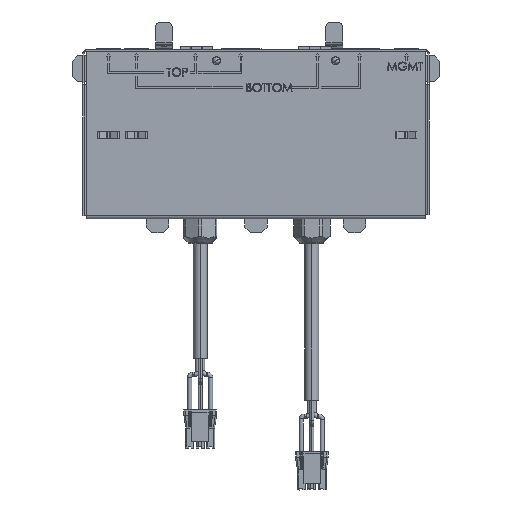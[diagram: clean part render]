
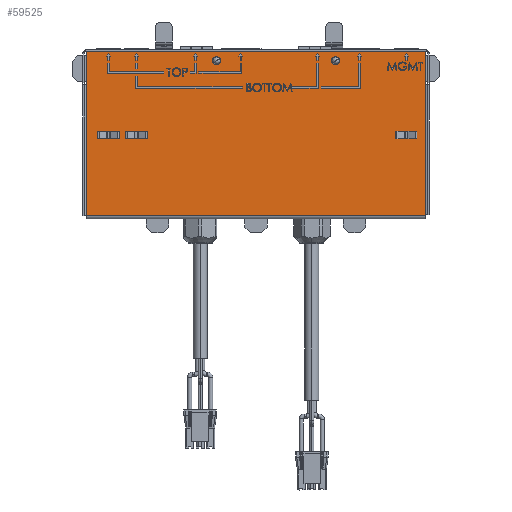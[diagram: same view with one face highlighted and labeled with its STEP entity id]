
A CAD part, front view. The second image highlights one B-rep face of the part: STEP entity #59525.
In plain terms, the highlighted planar face has unit normal (0, -1, 0).
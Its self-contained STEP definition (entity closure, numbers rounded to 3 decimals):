
#37 = EDGE_CURVE ( 'NONE', #66529, #31765, #1472, .T. ) ;
#723 = DIRECTION ( 'NONE',  ( 0., 0., -1. ) ) ;
#1472 = LINE ( 'NONE', #13560, #107700 ) ;
#2090 = DIRECTION ( 'NONE',  ( 0., 0., -1. ) ) ;
#2343 = PLANE ( 'NONE',  #99448 ) ;
#2634 = DIRECTION ( 'NONE',  ( 0., -1., 0. ) ) ;
#2810 = AXIS2_PLACEMENT_3D ( 'NONE', #19509, #91517, #29852 ) ;
#3561 = DIRECTION ( 'NONE',  ( 0., -1., 0. ) ) ;
#4928 = AXIS2_PLACEMENT_3D ( 'NONE', #39064, #110901, #49412 ) ;
#4945 = VERTEX_POINT ( 'NONE', #39700 ) ;
#4988 = AXIS2_PLACEMENT_3D ( 'NONE', #31893, #103863, #44095 ) ;
#6304 = ORIENTED_EDGE ( 'NONE', *, *, #91416, .F. ) ;
#9356 = CARTESIAN_POINT ( 'NONE',  ( -85.534, -45., 57.625 ) ) ;
#9425 = CARTESIAN_POINT ( 'NONE',  ( 107.667, -45., 57.625 ) ) ;
#9965 = EDGE_CURVE ( 'NONE', #80242, #111327, #88163, .T. ) ;
#12656 = DIRECTION ( 'NONE',  ( 0., 0., -1. ) ) ;
#12974 = VERTEX_POINT ( 'NONE', #112341 ) ;
#13062 = CARTESIAN_POINT ( 'NONE',  ( 121.8, -45., 120. ) ) ;
#13560 = CARTESIAN_POINT ( 'NONE',  ( 121.8, -45., 2.2 ) ) ;
#13964 = CARTESIAN_POINT ( 'NONE',  ( -121.8, -45., 2.2 ) ) ;
#14615 = AXIS2_PLACEMENT_3D ( 'NONE', #17331, #89354, #27738 ) ;
#14721 = CIRCLE ( 'NONE', #95764, 2.375 ) ;
#15742 = ORIENTED_EDGE ( 'NONE', *, *, #59440, .F. ) ;
#16477 = ORIENTED_EDGE ( 'NONE', *, *, #9965, .F. ) ;
#17331 = CARTESIAN_POINT ( 'NONE',  ( -105.771, -45., 60. ) ) ;
#19210 = CARTESIAN_POINT ( 'NONE',  ( -105.771, -45., 57.625 ) ) ;
#19509 = CARTESIAN_POINT ( 'NONE',  ( 107.667, -45., 60. ) ) ;
#22401 = ORIENTED_EDGE ( 'NONE', *, *, #130138, .F. ) ;
#22595 = CARTESIAN_POINT ( 'NONE',  ( 57.002, -45., 110.2 ) ) ;
#22649 = CARTESIAN_POINT ( 'NONE',  ( 121.8, -45., 0. ) ) ;
#23483 = EDGE_CURVE ( 'NONE', #106055, #96003, #41363, .T. ) ;
#24385 = FACE_BOUND ( 'NONE', #38650, .T. ) ;
#25509 = VERTEX_POINT ( 'NONE', #9425 ) ;
#27351 = EDGE_CURVE ( 'NONE', #109456, #122759, #77948, .T. ) ;
#27738 = DIRECTION ( 'NONE',  ( 0., 0., -1. ) ) ;
#29612 = CARTESIAN_POINT ( 'NONE',  ( -85.534, -45., 60. ) ) ;
#29852 = DIRECTION ( 'NONE',  ( 0., 0., -1. ) ) ;
#31458 = AXIS2_PLACEMENT_3D ( 'NONE', #64273, #2634, #74644 ) ;
#31765 = VERTEX_POINT ( 'NONE', #13964 ) ;
#31833 = EDGE_CURVE ( 'NONE', #66529, #12974, #108874, .T. ) ;
#31893 = CARTESIAN_POINT ( 'NONE',  ( -85.534, -45., 60. ) ) ;
#33481 = ORIENTED_EDGE ( 'NONE', *, *, #27351, .F. ) ;
#34513 = CIRCLE ( 'NONE', #100610, 3. ) ;
#35184 = EDGE_LOOP ( 'NONE', ( #114780, #53481 ) ) ;
#38650 = EDGE_LOOP ( 'NONE', ( #88782, #6304 ) ) ;
#39064 = CARTESIAN_POINT ( 'NONE',  ( 107.667, -45., 60. ) ) ;
#39571 = DIRECTION ( 'NONE',  ( 0., -1., 0. ) ) ;
#39700 = CARTESIAN_POINT ( 'NONE',  ( -85.534, -45., 62.375 ) ) ;
#39996 = DIRECTION ( 'NONE',  ( 0., 0., -1. ) ) ;
#40606 = ORIENTED_EDGE ( 'NONE', *, *, #47337, .F. ) ;
#41363 = CIRCLE ( 'NONE', #102148, 3. ) ;
#42321 = LINE ( 'NONE', #13062, #97079 ) ;
#44095 = DIRECTION ( 'NONE',  ( 0., 0., -1. ) ) ;
#44290 = EDGE_LOOP ( 'NONE', ( #33481, #22401 ) ) ;
#47337 = EDGE_CURVE ( 'NONE', #111327, #80242, #55453, .T. ) ;
#48335 = LINE ( 'NONE', #109488, #96614 ) ;
#49412 = DIRECTION ( 'NONE',  ( 0., 0., -1. ) ) ;
#51740 = FACE_BOUND ( 'NONE', #128701, .T. ) ;
#53481 = ORIENTED_EDGE ( 'NONE', *, *, #23483, .F. ) ;
#54499 = CIRCLE ( 'NONE', #4928, 2.375 ) ;
#54965 = FACE_BOUND ( 'NONE', #44290, .T. ) ;
#55453 = CIRCLE ( 'NONE', #31458, 2.375 ) ;
#56224 = ORIENTED_EDGE ( 'NONE', *, *, #31833, .T. ) ;
#57705 = VERTEX_POINT ( 'NONE', #9356 ) ;
#58081 = ORIENTED_EDGE ( 'NONE', *, *, #96185, .F. ) ;
#58520 = DIRECTION ( 'NONE',  ( 0., 0., 1. ) ) ;
#59440 = EDGE_CURVE ( 'NONE', #74975, #25509, #74300, .T. ) ;
#59525 = ADVANCED_FACE ( 'NONE', ( #54965, #106425, #51740, #24385, #130562, #103204 ), #2343, .T. ) ;
#60798 = EDGE_LOOP ( 'NONE', ( #58081, #68335, #56224, #77509 ) ) ;
#61848 = CIRCLE ( 'NONE', #4988, 2.375 ) ;
#62307 = DIRECTION ( 'NONE',  ( 0., -1., 0. ) ) ;
#63738 = DIRECTION ( 'NONE',  ( 0., -1., 0. ) ) ;
#64273 = CARTESIAN_POINT ( 'NONE',  ( -105.771, -45., 60. ) ) ;
#65225 = CARTESIAN_POINT ( 'NONE',  ( -28.325, -45., 113.2 ) ) ;
#66529 = VERTEX_POINT ( 'NONE', #126412 ) ;
#66844 = CARTESIAN_POINT ( 'NONE',  ( 107.667, -45., 62.375 ) ) ;
#68335 = ORIENTED_EDGE ( 'NONE', *, *, #37, .F. ) ;
#68837 = CARTESIAN_POINT ( 'NONE',  ( 121.8, -45., 0. ) ) ;
#70060 = VERTEX_POINT ( 'NONE', #85223 ) ;
#71075 = EDGE_CURVE ( 'NONE', #96003, #106055, #34513, .T. ) ;
#74300 = CIRCLE ( 'NONE', #2810, 2.375 ) ;
#74342 = DIRECTION ( 'NONE',  ( 0., -1., 0. ) ) ;
#74644 = DIRECTION ( 'NONE',  ( 0., 0., -1. ) ) ;
#74789 = CARTESIAN_POINT ( 'NONE',  ( 57.002, -45., 116.2 ) ) ;
#74975 = VERTEX_POINT ( 'NONE', #66844 ) ;
#74996 = CARTESIAN_POINT ( 'NONE',  ( -28.325, -45., 110.2 ) ) ;
#75597 = DIRECTION ( 'NONE',  ( 0., 0., -1. ) ) ;
#77509 = ORIENTED_EDGE ( 'NONE', *, *, #105155, .T. ) ;
#77948 = CIRCLE ( 'NONE', #111929, 3. ) ;
#78978 = DIRECTION ( 'NONE',  ( 0., 0., 1. ) ) ;
#79025 = EDGE_LOOP ( 'NONE', ( #40606, #16477 ) ) ;
#80242 = VERTEX_POINT ( 'NONE', #102264 ) ;
#81352 = EDGE_CURVE ( 'NONE', #25509, #74975, #54499, .T. ) ;
#81938 = AXIS2_PLACEMENT_3D ( 'NONE', #101159, #39571, #111420 ) ;
#85223 = CARTESIAN_POINT ( 'NONE',  ( -121.8, -45., 120. ) ) ;
#88163 = CIRCLE ( 'NONE', #14615, 2.375 ) ;
#88782 = ORIENTED_EDGE ( 'NONE', *, *, #130174, .F. ) ;
#89354 = DIRECTION ( 'NONE',  ( 0., -1., 0. ) ) ;
#91416 = EDGE_CURVE ( 'NONE', #4945, #57705, #61848, .T. ) ;
#91517 = DIRECTION ( 'NONE',  ( 0., -1., 0. ) ) ;
#93656 = DIRECTION ( 'NONE',  ( -1., 0., 0. ) ) ;
#93668 = CIRCLE ( 'NONE', #81938, 3. ) ;
#95764 = AXIS2_PLACEMENT_3D ( 'NONE', #29612, #101601, #39996 ) ;
#96003 = VERTEX_POINT ( 'NONE', #74996 ) ;
#96185 = EDGE_CURVE ( 'NONE', #31765, #70060, #48335, .T. ) ;
#96614 = VECTOR ( 'NONE', #78978, 1000. ) ;
#97079 = VECTOR ( 'NONE', #115585, 1000. ) ;
#99448 = AXIS2_PLACEMENT_3D ( 'NONE', #22649, #74342, #12656 ) ;
#100610 = AXIS2_PLACEMENT_3D ( 'NONE', #125293, #63738, #2090 ) ;
#101159 = CARTESIAN_POINT ( 'NONE',  ( 57.002, -45., 113.2 ) ) ;
#101601 = DIRECTION ( 'NONE',  ( 0., -1., 0. ) ) ;
#102148 = AXIS2_PLACEMENT_3D ( 'NONE', #65225, #3561, #75597 ) ;
#102264 = CARTESIAN_POINT ( 'NONE',  ( -105.771, -45., 62.375 ) ) ;
#103204 = FACE_OUTER_BOUND ( 'NONE', #60798, .T. ) ;
#103863 = DIRECTION ( 'NONE',  ( 0., -1., 0. ) ) ;
#105155 = EDGE_CURVE ( 'NONE', #12974, #70060, #42321, .T. ) ;
#106055 = VERTEX_POINT ( 'NONE', #123418 ) ;
#106425 = FACE_BOUND ( 'NONE', #35184, .T. ) ;
#107700 = VECTOR ( 'NONE', #93656, 1000. ) ;
#108874 = LINE ( 'NONE', #68837, #133033 ) ;
#109456 = VERTEX_POINT ( 'NONE', #22595 ) ;
#109488 = CARTESIAN_POINT ( 'NONE',  ( -121.8, -45., 0. ) ) ;
#110901 = DIRECTION ( 'NONE',  ( 0., -1., 0. ) ) ;
#111327 = VERTEX_POINT ( 'NONE', #19210 ) ;
#111420 = DIRECTION ( 'NONE',  ( 0., 0., -1. ) ) ;
#111929 = AXIS2_PLACEMENT_3D ( 'NONE', #123894, #62307, #723 ) ;
#112341 = CARTESIAN_POINT ( 'NONE',  ( 121.8, -45., 120. ) ) ;
#114780 = ORIENTED_EDGE ( 'NONE', *, *, #71075, .F. ) ;
#115585 = DIRECTION ( 'NONE',  ( -1., 0., 0. ) ) ;
#118293 = ORIENTED_EDGE ( 'NONE', *, *, #81352, .F. ) ;
#122759 = VERTEX_POINT ( 'NONE', #74789 ) ;
#123418 = CARTESIAN_POINT ( 'NONE',  ( -28.325, -45., 116.2 ) ) ;
#123894 = CARTESIAN_POINT ( 'NONE',  ( 57.002, -45., 113.2 ) ) ;
#125293 = CARTESIAN_POINT ( 'NONE',  ( -28.325, -45., 113.2 ) ) ;
#126412 = CARTESIAN_POINT ( 'NONE',  ( 121.8, -45., 2.2 ) ) ;
#128701 = EDGE_LOOP ( 'NONE', ( #118293, #15742 ) ) ;
#130138 = EDGE_CURVE ( 'NONE', #122759, #109456, #93668, .T. ) ;
#130174 = EDGE_CURVE ( 'NONE', #57705, #4945, #14721, .T. ) ;
#130562 = FACE_BOUND ( 'NONE', #79025, .T. ) ;
#133033 = VECTOR ( 'NONE', #58520, 1000. ) ;
